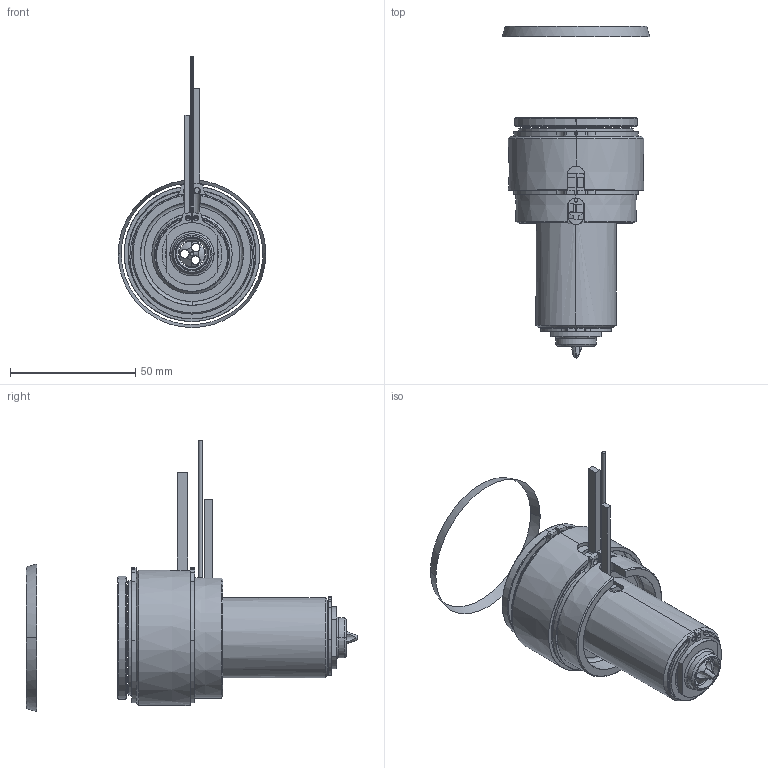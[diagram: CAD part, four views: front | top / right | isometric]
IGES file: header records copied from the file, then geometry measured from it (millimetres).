
Start section: SolidWorks IGES file using analytic representation for surfaces
Global section: file name: C:\Documents and Settings\ws-20\Desktop\TEM\UGEP5501-S-A-1 [Øf-1.55 ØC-12].IGS; native system: SolidWorks 2012; preprocessor: SolidWorks 2012; author: ws-20; date: 120427.075853; units: millimetre
Bounding box: 58.79 x 132.24 x 108.04 mm (x, y, z)
Surface area: 51091.5 mm2 (no closed solid volume)
Topology: 0 solids, 0 shells, 181 faces, 3676 edges, 3676 vertices
Faces by surface type: revolution 115, bspline 66
